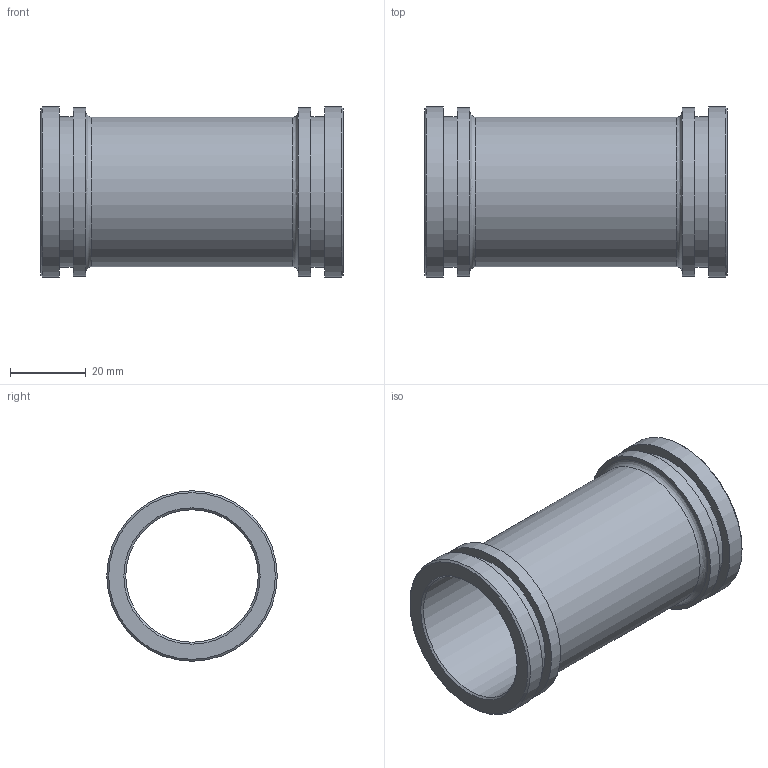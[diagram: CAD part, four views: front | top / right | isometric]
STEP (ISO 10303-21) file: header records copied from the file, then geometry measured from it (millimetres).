
FILE_DESCRIPTION((''),'2;1');
FILE_NAME('N:\CAD\ARCHIV\5350 (-999)\Standardhülsen\5350.035.080\Kundenteil 3D\5350.035.080 für Kunden.stp','2009-02-06T15:24:19',('HWalkhoff'),(''),'Autodesk Inventor 2009','Autodesk Inventor 2009','');
FILE_SCHEMA(('AUTOMOTIVE_DESIGN { 1 0 10303 214 1 1 1 1 }'));
Length unit declared in the file: millimetre
Products named in the file (1): Hülse für Kunden
Bounding box: 80 x 45 x 45 mm (x, y, z)
Volume: 27104.3 mm3; surface area: 21955.4 mm2
Topology: 1 solids, 1 shells, 22 faces, 36 edges, 22 vertices
Faces by surface type: cylinder 8, plane 8, cone 4, bspline 2
Full cylindrical faces by diameter (mm): 35 x1, 39.5 x1, 39.76 x2, 44.5 x2, 45 x2
Entity records: 554 total; most frequent: CARTESIAN_POINT 155, DIRECTION 86, ORIENTED_EDGE 44, EDGE_LOOP 44, AXIS2_PLACEMENT_3D 43, VERTEX_POINT 22, CIRCLE 22, EDGE_CURVE 22
